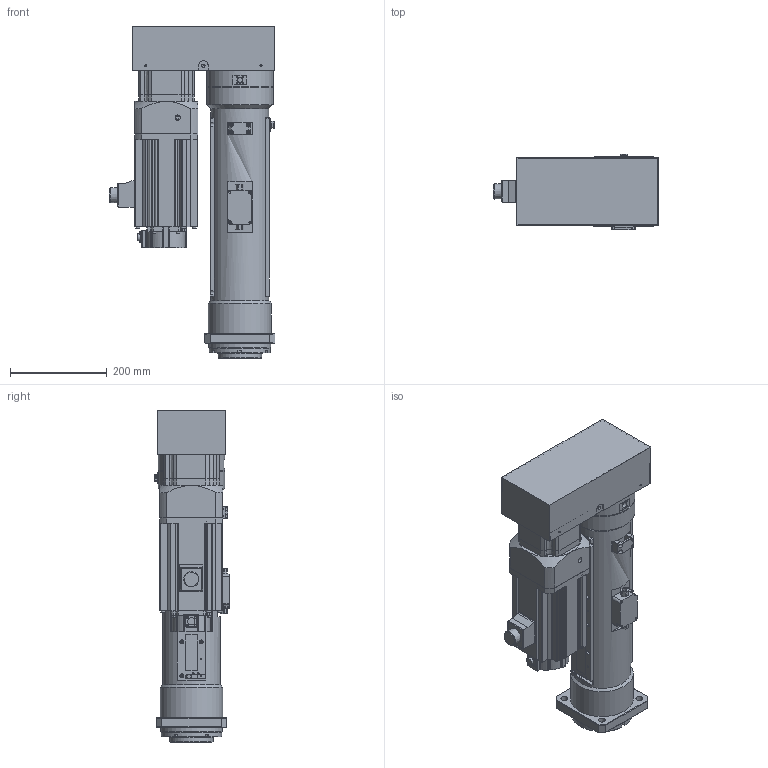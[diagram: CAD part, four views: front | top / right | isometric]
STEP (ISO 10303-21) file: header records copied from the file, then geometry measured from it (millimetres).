
FILE_DESCRIPTION( ('This file contains a STEP AP42 implementation' ,'as created by ZW3D STEP Interface translator.') ,'2;1' );
FILE_NAME( 'OACIS-DC-P030-P045-300-200-A6_V20.01.stp' ,'25 3 8. 94437', (''), ('ZWCAD Software Co.'), 'Version 1.0', 'ZW3D to STEP translator', '' );
FILE_SCHEMA(('AUTOMOTIVE_DESIGN { 1 0 10303 214 1 1 1 1 }'));
Length unit declared in the file: millimetre
Products named in the file (2): 0; OACIS-DC-P030-P045-300-200-A6_V20.01
Bounding box: 343 x 155 x 686.5 mm (x, y, z)
Volume: 10775428.9 mm3; surface area: 1622510.6 mm2
Topology: 21 solids, 26 shells, 1792 faces, 4616 edges, 2999 vertices
Faces by surface type: plane 769, cylinder 661, cone 194, bspline 134, torus 30, sphere 4
Full cylindrical faces by diameter (mm): 1.567 x4, 2 x1, 2.459 x1, 3.3 x83, 4.2 x4, 4.3 x26, 4.5 x14, 4.917 x12, 5 x1, 5.3 x4, 5.5 x4, 6.5 x4, 6.8 x40, 7 x4, 8 x26, 8.4 x8, 8.5 x4, 9 x14, 9.5 x4, 10 x3, 10.1 x4, 10.2 x16, 10.5 x4, 12 x1, 14 x4, 14.8 x1, 15 x8, 16.5 x2, 17.5 x1, 18 x2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
Entity records: 60274 total; most frequent: CARTESIAN_POINT 14628, DIRECTION 9099, ORIENTED_EDGE 9043, EDGE_CURVE 4529, AXIS2_PLACEMENT_3D 3368, VERTEX_POINT 2996, VECTOR 2363, LINE 2363
